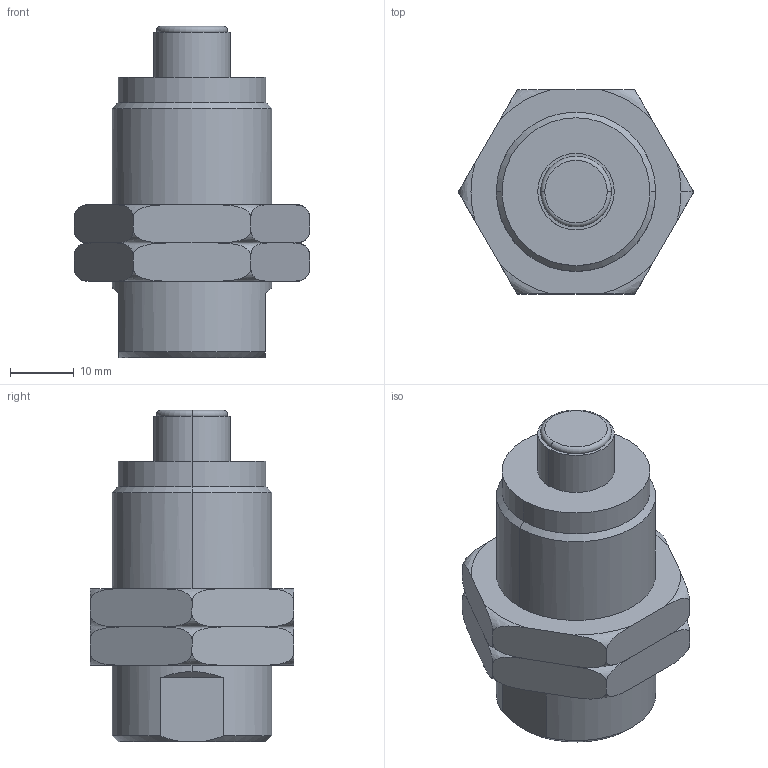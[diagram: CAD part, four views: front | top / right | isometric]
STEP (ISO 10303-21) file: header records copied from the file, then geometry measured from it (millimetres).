
FILE_DESCRIPTION (( 'STEP AP214' ), '1' );
FILE_NAME ('RBQC2508.step.step', '2023-01-02T11:57:15', ( '' ), ( '' ), 'SwSTEP 2.0', 'SolidWorks 2022', '' );
FILE_SCHEMA (( 'AUTOMOTIVE_DESIGN' ));
Length unit declared in the file: millimetre
Products named in the file (4): RBQC2508.step; RBQC2508.step_RBQ-Body_2508; RBQC2508.step_RBQ-Nut_25; RBQC2508.step_RBQ-Piston_2508C
Assembly tree (4 placements, depth 2):
  RBQC2508.step
    RBQC2508.step_RBQ-Body_2508
    RBQC2508.step_RBQ-Piston_2508C
    RBQC2508.step_RBQ-Nut_25  x2
Bounding box: 36.95 x 32 x 52 mm (x, y, z)
Volume: 25675.3 mm3; surface area: 9270.3 mm2
Topology: 4 solids, 4 shells, 78 faces, 190 edges, 124 vertices
Faces by surface type: torus 30, plane 28, cylinder 16, cone 4
Entity records: 2052 total; most frequent: CARTESIAN_POINT 669, DIRECTION 268, ORIENTED_EDGE 252, EDGE_CURVE 126, AXIS2_PLACEMENT_3D 113, VERTEX_POINT 82, EDGE_LOOP 60, ADVANCED_FACE 54
